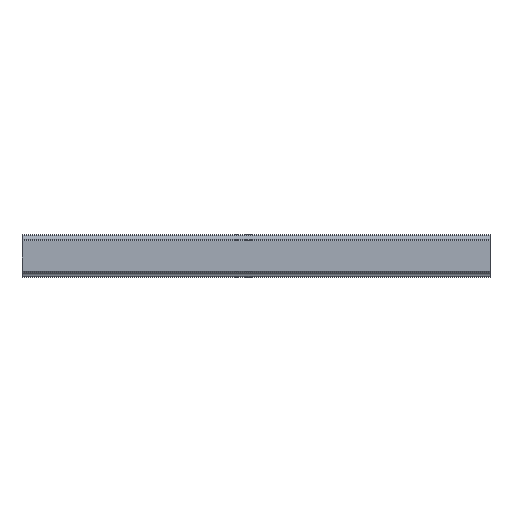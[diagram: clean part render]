
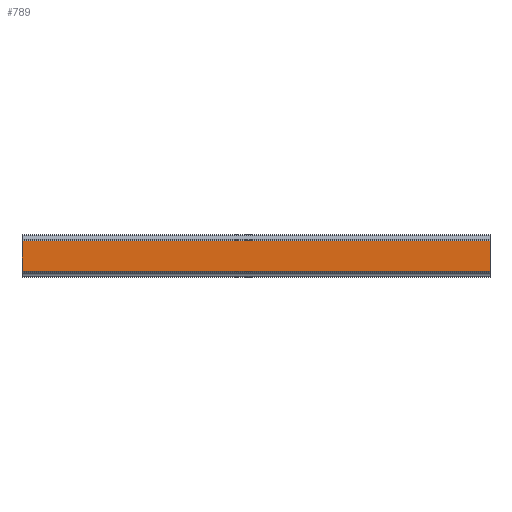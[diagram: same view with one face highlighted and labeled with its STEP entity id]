
A CAD part, top view. The second image highlights one B-rep face of the part: STEP entity #789.
In plain terms, the highlighted planar face has unit normal (0, 0, 1).
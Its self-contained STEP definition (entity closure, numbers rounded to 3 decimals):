
#728=CARTESIAN_POINT('POINT48',(200.,-7.26,
   17.5));
#729=VERTEX_POINT('VERTEX48',#728);
#736=CARTESIAN_POINT('POINT49',(-20.,-7.26,
   17.5));
#737=VERTEX_POINT('VERTEX49',#736);
#738=CARTESIAN_POINT('POS81',(-20.,-7.26,
   17.5));
#739=DIRECTION('DIR118',(1.,0.,0.));
#740=VECTOR('VEC44',#739,1.);
#741=LINE('STRAIGHT44',#738,#740);
#742=EDGE_CURVE('EDGE72',#737,#729,#741,.T.);
#759=CARTESIAN_POINT('POINT50',(200.,7.26,
   17.5));
#760=VERTEX_POINT('VERTEX50',#759);
#761=CARTESIAN_POINT('POS84',(200.,-7.26,
   17.5));
#762=DIRECTION('DIR122',(0.,1.,0.));
#763=VECTOR('VEC46',#762,1.);
#764=LINE('STRAIGHT46',#761,#763);
#765=EDGE_CURVE('EDGE74',#729,#760,#764,.T.);
#766=ORIENTED_EDGE('COEDGE119',*,*,#765,.T.);
#767=CARTESIAN_POINT('POINT51',(-20.,7.26,
   17.5));
#768=VERTEX_POINT('VERTEX51',#767);
#769=CARTESIAN_POINT('POS85',(-20.,7.26,
   17.5));
#770=DIRECTION('DIR123',(1.,0.,0.));
#771=VECTOR('VEC47',#770,1.);
#772=LINE('STRAIGHT47',#769,#771);
#773=EDGE_CURVE('EDGE75',#768,#760,#772,.T.);
#774=ORIENTED_EDGE('COEDGE120',*,*,#773,.F.);
#775=CARTESIAN_POINT('POS86',(-20.,-7.26,
   17.5));
#776=DIRECTION('DIR124',(0.,1.,0.));
#777=VECTOR('VEC48',#776,1.);
#778=LINE('STRAIGHT48',#775,#777);
#779=EDGE_CURVE('EDGE76',#737,#768,#778,.T.);
#780=ORIENTED_EDGE('COEDGE121',*,*,#779,.F.);
#781=ORIENTED_EDGE('COEDGE122',*,*,#742,.T.);
#782=EDGE_LOOP('NONE',(#766,#774,#780,#781));
#783=FACE_BOUND('LOOP1',#782,.T.);
#784=CARTESIAN_POINT('POS87',(-20.,-7.26,
   17.5));
#785=DIRECTION('DIR125',(0.,0.,1.));
#786=DIRECTION('DIR126',(1.,0.,0.));
#787=AXIS2_PLACEMENT_3D('AXIS39',#784,#785,#786);
#788=PLANE('PLANE12',#787);
#789=ADVANCED_FACE('FACE32',(#783),#788,.T.);
